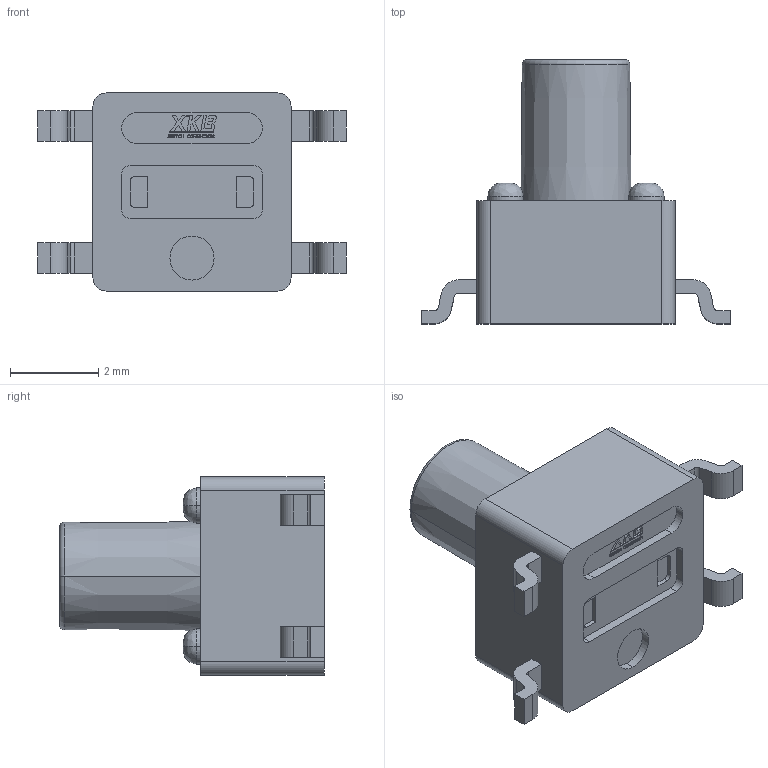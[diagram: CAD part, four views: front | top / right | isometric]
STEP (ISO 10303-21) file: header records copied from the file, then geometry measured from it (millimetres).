
FILE_DESCRIPTION(('STEP AP242'),'1');
FILE_NAME('ts-1109s-a-f.stp','2021-12-03T11:36:42',('TraceParts'),('TraceParts S.A.'),'Spatial InterOp 3D',' ',' ');
FILE_SCHEMA(('AP242_MANAGED_MODEL_BASED_3D_ENGINEERING_MIM_LF {1 0 10303 442 1 1 4}'));
Length unit declared in the file: millimetre
Products named in the file (1): ts-1109s-a-f
Bounding box: 7 x 6 x 4.5 mm (x, y, z)
Volume: 72.5 mm3; surface area: 134.5 mm2
Topology: 1 solids, 1 shells, 557 faces, 1553 edges, 1032 vertices
Faces by surface type: plane 496, cylinder 47, bspline 8, torus 4, cone 2
Entity records: 17790 total; most frequent: CARTESIAN_POINT 3359, ORIENTED_EDGE 3106, DIRECTION 2777, EDGE_CURVE 1553, LINE 1429, VECTOR 1429, VERTEX_POINT 1032, AXIS2_PLACEMENT_3D 674
